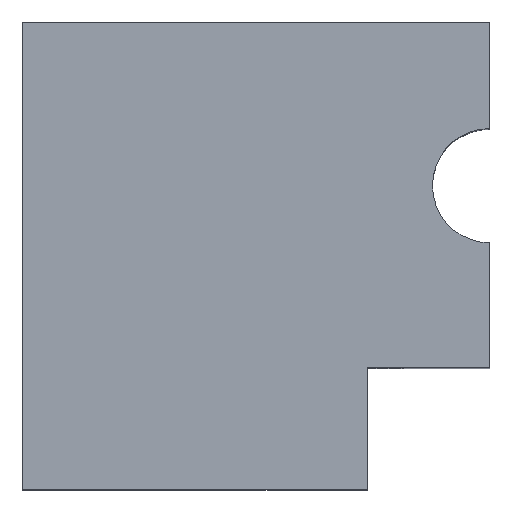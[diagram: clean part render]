
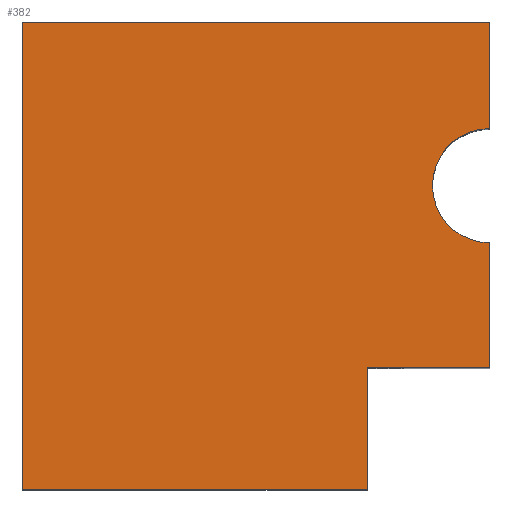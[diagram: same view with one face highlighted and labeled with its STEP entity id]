
A CAD part, top view. The second image highlights one B-rep face of the part: STEP entity #382.
In plain terms, the highlighted planar face has unit normal (0, 0, 1).
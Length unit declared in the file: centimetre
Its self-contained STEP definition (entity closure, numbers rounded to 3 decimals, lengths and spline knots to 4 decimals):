
#10 = CARTESIAN_POINT ( 'NONE',  ( 0., 1000., 1000. ) ) ;
#19 = LINE ( 'NONE', #10, #965 ) ;
#105 = CIRCLE ( 'NONE', #132, 122.2705 ) ;
#131 = EDGE_CURVE ( 'NONE', #704, #922, #653, .T. ) ;
#132 = AXIS2_PLACEMENT_3D ( 'NONE', #997, #389, #892 ) ;
#140 = CARTESIAN_POINT ( 'NONE',  ( 0., 0., 1000. ) ) ;
#157 = CARTESIAN_POINT ( 'NONE',  ( 1000., 1000., 1000. ) ) ;
#172 = DIRECTION ( 'NONE',  ( 0., 1., 0. ) ) ;
#184 = CARTESIAN_POINT ( 'NONE',  ( 738.1166, 259.4265, 1000. ) ) ;
#207 = ORIENTED_EDGE ( 'NONE', *, *, #131, .T. ) ;
#283 = ORIENTED_EDGE ( 'NONE', *, *, #1270, .T. ) ;
#284 = VECTOR ( 'NONE', #1068, 100. ) ;
#315 = VERTEX_POINT ( 'NONE', #157 ) ;
#361 = EDGE_CURVE ( 'NONE', #922, #667, #877, .T. ) ;
#369 = EDGE_CURVE ( 'NONE', #667, #1255, #542, .T. ) ;
#371 = DIRECTION ( 'NONE',  ( 0., 0., 1. ) ) ;
#382 = ADVANCED_FACE ( 'NONE', ( #469 ), #1177, .T. ) ;
#385 = CARTESIAN_POINT ( 'NONE',  ( 1000., 771.9766, 1000. ) ) ;
#389 = DIRECTION ( 'NONE',  ( 0., 0., 1. ) ) ;
#391 = DIRECTION ( 'NONE',  ( 0., 1., 0. ) ) ;
#437 = VERTEX_POINT ( 'NONE', #523 ) ;
#469 = FACE_OUTER_BOUND ( 'NONE', #1294, .T. ) ;
#481 = EDGE_CURVE ( 'NONE', #1255, #1026, #778, .T. ) ;
#492 = VECTOR ( 'NONE', #1298, 100. ) ;
#499 = EDGE_CURVE ( 'NONE', #629, #315, #789, .T. ) ;
#508 = EDGE_CURVE ( 'NONE', #1026, #437, #571, .T. ) ;
#513 = DIRECTION ( 'NONE',  ( -1., 0., 0. ) ) ;
#519 = ORIENTED_EDGE ( 'NONE', *, *, #1092, .F. ) ;
#523 = CARTESIAN_POINT ( 'NONE',  ( 1000., 527.4355, 1000. ) ) ;
#542 = LINE ( 'NONE', #884, #563 ) ;
#563 = VECTOR ( 'NONE', #172, 100. ) ;
#571 = LINE ( 'NONE', #1094, #1078 ) ;
#580 = CARTESIAN_POINT ( 'NONE',  ( 0., 1000., 1000. ) ) ;
#629 = VERTEX_POINT ( 'NONE', #385 ) ;
#632 = CARTESIAN_POINT ( 'NONE',  ( 0., 1000., 1000. ) ) ;
#648 = VECTOR ( 'NONE', #702, 100. ) ;
#653 = LINE ( 'NONE', #632, #968 ) ;
#667 = VERTEX_POINT ( 'NONE', #819 ) ;
#670 = CARTESIAN_POINT ( 'NONE',  ( 0., 0., 1000. ) ) ;
#702 = DIRECTION ( 'NONE',  ( 0., 1., 0. ) ) ;
#704 = VERTEX_POINT ( 'NONE', #580 ) ;
#717 = CARTESIAN_POINT ( 'NONE',  ( 738.1166, 259.4265, 1000. ) ) ;
#739 = ORIENTED_EDGE ( 'NONE', *, *, #361, .T. ) ;
#766 = ORIENTED_EDGE ( 'NONE', *, *, #499, .T. ) ;
#775 = AXIS2_PLACEMENT_3D ( 'NONE', #140, #371, #950 ) ;
#778 = LINE ( 'NONE', #184, #492 ) ;
#789 = LINE ( 'NONE', #1192, #648 ) ;
#819 = CARTESIAN_POINT ( 'NONE',  ( 738.1166, 0., 1000. ) ) ;
#877 = LINE ( 'NONE', #670, #284 ) ;
#884 = CARTESIAN_POINT ( 'NONE',  ( 738.1166, 0., 1000. ) ) ;
#892 = DIRECTION ( 'NONE',  ( 1., 0., 0. ) ) ;
#922 = VERTEX_POINT ( 'NONE', #1279 ) ;
#950 = DIRECTION ( 'NONE',  ( 1., 0., 0. ) ) ;
#965 = VECTOR ( 'NONE', #513, 100. ) ;
#968 = VECTOR ( 'NONE', #1042, 100. ) ;
#997 = CARTESIAN_POINT ( 'NONE',  ( 1000., 649.706, 1000. ) ) ;
#1015 = ORIENTED_EDGE ( 'NONE', *, *, #508, .T. ) ;
#1026 = VERTEX_POINT ( 'NONE', #1114 ) ;
#1042 = DIRECTION ( 'NONE',  ( 0., -1., 0. ) ) ;
#1068 = DIRECTION ( 'NONE',  ( 1., 0., 0. ) ) ;
#1078 = VECTOR ( 'NONE', #391, 100. ) ;
#1092 = EDGE_CURVE ( 'NONE', #629, #437, #105, .T. ) ;
#1094 = CARTESIAN_POINT ( 'NONE',  ( 1000., 1000., 1000. ) ) ;
#1114 = CARTESIAN_POINT ( 'NONE',  ( 1000., 259.4265, 1000. ) ) ;
#1158 = ORIENTED_EDGE ( 'NONE', *, *, #369, .T. ) ;
#1177 = PLANE ( 'NONE',  #775 ) ;
#1192 = CARTESIAN_POINT ( 'NONE',  ( 1000., 1000., 1000. ) ) ;
#1255 = VERTEX_POINT ( 'NONE', #717 ) ;
#1270 = EDGE_CURVE ( 'NONE', #315, #704, #19, .T. ) ;
#1279 = CARTESIAN_POINT ( 'NONE',  ( 0., 0., 1000. ) ) ;
#1294 = EDGE_LOOP ( 'NONE', ( #1158, #1299, #1015, #519, #766, #283, #207, #739 ) ) ;
#1298 = DIRECTION ( 'NONE',  ( 1., 0., 0. ) ) ;
#1299 = ORIENTED_EDGE ( 'NONE', *, *, #481, .T. ) ;
